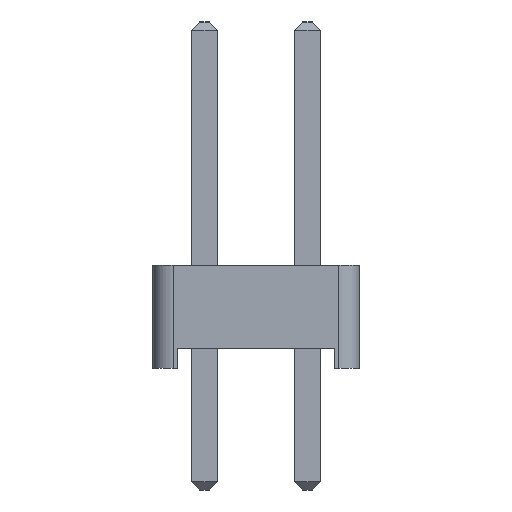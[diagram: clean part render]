
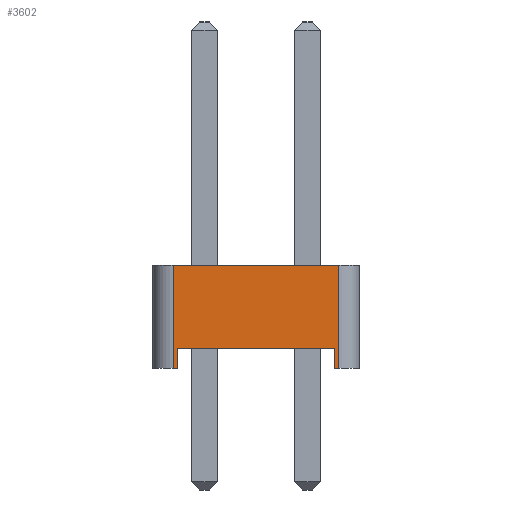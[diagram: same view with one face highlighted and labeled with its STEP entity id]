
A CAD part, left-side view. The second image highlights one B-rep face of the part: STEP entity #3602.
In plain terms, the highlighted planar face has unit normal (-1, 0, 0).
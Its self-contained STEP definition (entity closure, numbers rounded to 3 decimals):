
#3342 = VERTEX_POINT('',#3343);
#3343 = CARTESIAN_POINT('',(-1.27,2.04,0.));
#3351 = PLANE('',#3352);
#3352 = AXIS2_PLACEMENT_3D('',#3353,#3354,#3355);
#3353 = CARTESIAN_POINT('',(0.,0.,0.));
#3354 = DIRECTION('',(-0.,-0.,-1.));
#3355 = DIRECTION('',(-1.,0.,0.));
#3367 = CYLINDRICAL_SURFACE('',#3368,0.5);
#3368 = AXIS2_PLACEMENT_3D('',#3369,#3370,#3371);
#3369 = CARTESIAN_POINT('',(-0.77,2.04,0.));
#3370 = DIRECTION('',(0.,0.,1.));
#3371 = DIRECTION('',(0.,1.,0.));
#3469 = VERTEX_POINT('',#3470);
#3470 = CARTESIAN_POINT('',(-1.27,1.94,0.));
#3484 = PLANE('',#3485);
#3485 = AXIS2_PLACEMENT_3D('',#3486,#3487,#3488);
#3486 = CARTESIAN_POINT('',(1.27,1.94,0.));
#3487 = DIRECTION('',(0.,-1.,0.));
#3488 = DIRECTION('',(-1.,0.,0.));
#3496 = EDGE_CURVE('',#3469,#3342,#3497,.T.);
#3497 = SURFACE_CURVE('',#3498,(#3502,#3509),.PCURVE_S1.);
#3498 = LINE('',#3499,#3500);
#3499 = CARTESIAN_POINT('',(-1.27,-2.54,0.));
#3500 = VECTOR('',#3501,1.);
#3501 = DIRECTION('',(0.,1.,0.));
#3502 = PCURVE('',#3351,#3503);
#3503 = DEFINITIONAL_REPRESENTATION('',(#3504),#3508);
#3504 = LINE('',#3505,#3506);
#3505 = CARTESIAN_POINT('',(1.27,-2.54));
#3506 = VECTOR('',#3507,1.);
#3507 = DIRECTION('',(0.,1.));
#3508 = ( GEOMETRIC_REPRESENTATION_CONTEXT(2) 
PARAMETRIC_REPRESENTATION_CONTEXT() REPRESENTATION_CONTEXT('2D SPACE',''
  ) );
#3509 = PCURVE('',#3510,#3515);
#3510 = PLANE('',#3511);
#3511 = AXIS2_PLACEMENT_3D('',#3512,#3513,#3514);
#3512 = CARTESIAN_POINT('',(-1.27,-2.54,0.));
#3513 = DIRECTION('',(-1.,0.,0.));
#3514 = DIRECTION('',(0.,1.,0.));
#3515 = DEFINITIONAL_REPRESENTATION('',(#3516),#3520);
#3516 = LINE('',#3517,#3518);
#3517 = CARTESIAN_POINT('',(0.,0.));
#3518 = VECTOR('',#3519,1.);
#3519 = DIRECTION('',(1.,0.));
#3520 = ( GEOMETRIC_REPRESENTATION_CONTEXT(2) 
PARAMETRIC_REPRESENTATION_CONTEXT() REPRESENTATION_CONTEXT('2D SPACE',''
  ) );
#3526 = EDGE_CURVE('',#3342,#3527,#3529,.T.);
#3527 = VERTEX_POINT('',#3528);
#3528 = CARTESIAN_POINT('',(-1.27,2.04,2.54));
#3529 = SURFACE_CURVE('',#3530,(#3534,#3541),.PCURVE_S1.);
#3530 = LINE('',#3531,#3532);
#3531 = CARTESIAN_POINT('',(-1.27,2.04,0.));
#3532 = VECTOR('',#3533,1.);
#3533 = DIRECTION('',(0.,0.,1.));
#3534 = PCURVE('',#3367,#3535);
#3535 = DEFINITIONAL_REPRESENTATION('',(#3536),#3540);
#3536 = LINE('',#3537,#3538);
#3537 = CARTESIAN_POINT('',(1.571,0.));
#3538 = VECTOR('',#3539,1.);
#3539 = DIRECTION('',(0.,1.));
#3540 = ( GEOMETRIC_REPRESENTATION_CONTEXT(2) 
PARAMETRIC_REPRESENTATION_CONTEXT() REPRESENTATION_CONTEXT('2D SPACE',''
  ) );
#3541 = PCURVE('',#3510,#3542);
#3542 = DEFINITIONAL_REPRESENTATION('',(#3543),#3547);
#3543 = LINE('',#3544,#3545);
#3544 = CARTESIAN_POINT('',(4.58,0.));
#3545 = VECTOR('',#3546,1.);
#3546 = DIRECTION('',(0.,-1.));
#3547 = ( GEOMETRIC_REPRESENTATION_CONTEXT(2) 
PARAMETRIC_REPRESENTATION_CONTEXT() REPRESENTATION_CONTEXT('2D SPACE',''
  ) );
#3566 = PLANE('',#3567);
#3567 = AXIS2_PLACEMENT_3D('',#3568,#3569,#3570);
#3568 = CARTESIAN_POINT('',(0.,0.,2.54));
#3569 = DIRECTION('',(-0.,-0.,-1.));
#3570 = DIRECTION('',(-1.,0.,0.));
#3602 = ADVANCED_FACE('',(#3603),#3510,.T.);
#3603 = FACE_BOUND('',#3604,.T.);
#3604 = EDGE_LOOP('',(#3605,#3635,#3663,#3684,#3685,#3686,#3709,#3737));
#3605 = ORIENTED_EDGE('',*,*,#3606,.F.);
#3606 = EDGE_CURVE('',#3607,#3609,#3611,.T.);
#3607 = VERTEX_POINT('',#3608);
#3608 = CARTESIAN_POINT('',(-1.27,-2.04,0.));
#3609 = VERTEX_POINT('',#3610);
#3610 = CARTESIAN_POINT('',(-1.27,-1.94,0.));
#3611 = SURFACE_CURVE('',#3612,(#3616,#3623),.PCURVE_S1.);
#3612 = LINE('',#3613,#3614);
#3613 = CARTESIAN_POINT('',(-1.27,-2.54,0.));
#3614 = VECTOR('',#3615,1.);
#3615 = DIRECTION('',(0.,1.,0.));
#3616 = PCURVE('',#3510,#3617);
#3617 = DEFINITIONAL_REPRESENTATION('',(#3618),#3622);
#3618 = LINE('',#3619,#3620);
#3619 = CARTESIAN_POINT('',(0.,0.));
#3620 = VECTOR('',#3621,1.);
#3621 = DIRECTION('',(1.,0.));
#3622 = ( GEOMETRIC_REPRESENTATION_CONTEXT(2) 
PARAMETRIC_REPRESENTATION_CONTEXT() REPRESENTATION_CONTEXT('2D SPACE',''
  ) );
#3623 = PCURVE('',#3624,#3629);
#3624 = PLANE('',#3625);
#3625 = AXIS2_PLACEMENT_3D('',#3626,#3627,#3628);
#3626 = CARTESIAN_POINT('',(0.,0.,0.));
#3627 = DIRECTION('',(-0.,-0.,-1.));
#3628 = DIRECTION('',(-1.,0.,0.));
#3629 = DEFINITIONAL_REPRESENTATION('',(#3630),#3634);
#3630 = LINE('',#3631,#3632);
#3631 = CARTESIAN_POINT('',(1.27,-2.54));
#3632 = VECTOR('',#3633,1.);
#3633 = DIRECTION('',(0.,1.));
#3634 = ( GEOMETRIC_REPRESENTATION_CONTEXT(2) 
PARAMETRIC_REPRESENTATION_CONTEXT() REPRESENTATION_CONTEXT('2D SPACE',''
  ) );
#3635 = ORIENTED_EDGE('',*,*,#3636,.T.);
#3636 = EDGE_CURVE('',#3607,#3637,#3639,.T.);
#3637 = VERTEX_POINT('',#3638);
#3638 = CARTESIAN_POINT('',(-1.27,-2.04,2.54));
#3639 = SURFACE_CURVE('',#3640,(#3644,#3651),.PCURVE_S1.);
#3640 = LINE('',#3641,#3642);
#3641 = CARTESIAN_POINT('',(-1.27,-2.04,0.));
#3642 = VECTOR('',#3643,1.);
#3643 = DIRECTION('',(0.,0.,1.));
#3644 = PCURVE('',#3510,#3645);
#3645 = DEFINITIONAL_REPRESENTATION('',(#3646),#3650);
#3646 = LINE('',#3647,#3648);
#3647 = CARTESIAN_POINT('',(0.5,0.));
#3648 = VECTOR('',#3649,1.);
#3649 = DIRECTION('',(0.,-1.));
#3650 = ( GEOMETRIC_REPRESENTATION_CONTEXT(2) 
PARAMETRIC_REPRESENTATION_CONTEXT() REPRESENTATION_CONTEXT('2D SPACE',''
  ) );
#3651 = PCURVE('',#3652,#3657);
#3652 = CYLINDRICAL_SURFACE('',#3653,0.5);
#3653 = AXIS2_PLACEMENT_3D('',#3654,#3655,#3656);
#3654 = CARTESIAN_POINT('',(-0.77,-2.04,0.));
#3655 = DIRECTION('',(0.,0.,1.));
#3656 = DIRECTION('',(0.,-1.,0.));
#3657 = DEFINITIONAL_REPRESENTATION('',(#3658),#3662);
#3658 = LINE('',#3659,#3660);
#3659 = CARTESIAN_POINT('',(-1.571,0.));
#3660 = VECTOR('',#3661,1.);
#3661 = DIRECTION('',(-0.,1.));
#3662 = ( GEOMETRIC_REPRESENTATION_CONTEXT(2) 
PARAMETRIC_REPRESENTATION_CONTEXT() REPRESENTATION_CONTEXT('2D SPACE',''
  ) );
#3663 = ORIENTED_EDGE('',*,*,#3664,.T.);
#3664 = EDGE_CURVE('',#3637,#3527,#3665,.T.);
#3665 = SURFACE_CURVE('',#3666,(#3670,#3677),.PCURVE_S1.);
#3666 = LINE('',#3667,#3668);
#3667 = CARTESIAN_POINT('',(-1.27,-2.54,2.54));
#3668 = VECTOR('',#3669,1.);
#3669 = DIRECTION('',(0.,1.,0.));
#3670 = PCURVE('',#3510,#3671);
#3671 = DEFINITIONAL_REPRESENTATION('',(#3672),#3676);
#3672 = LINE('',#3673,#3674);
#3673 = CARTESIAN_POINT('',(0.,-2.54));
#3674 = VECTOR('',#3675,1.);
#3675 = DIRECTION('',(1.,0.));
#3676 = ( GEOMETRIC_REPRESENTATION_CONTEXT(2) 
PARAMETRIC_REPRESENTATION_CONTEXT() REPRESENTATION_CONTEXT('2D SPACE',''
  ) );
#3677 = PCURVE('',#3566,#3678);
#3678 = DEFINITIONAL_REPRESENTATION('',(#3679),#3683);
#3679 = LINE('',#3680,#3681);
#3680 = CARTESIAN_POINT('',(1.27,-2.54));
#3681 = VECTOR('',#3682,1.);
#3682 = DIRECTION('',(0.,1.));
#3683 = ( GEOMETRIC_REPRESENTATION_CONTEXT(2) 
PARAMETRIC_REPRESENTATION_CONTEXT() REPRESENTATION_CONTEXT('2D SPACE',''
  ) );
#3684 = ORIENTED_EDGE('',*,*,#3526,.F.);
#3685 = ORIENTED_EDGE('',*,*,#3496,.F.);
#3686 = ORIENTED_EDGE('',*,*,#3687,.T.);
#3687 = EDGE_CURVE('',#3469,#3688,#3690,.T.);
#3688 = VERTEX_POINT('',#3689);
#3689 = CARTESIAN_POINT('',(-1.27,1.94,0.5));
#3690 = SURFACE_CURVE('',#3691,(#3695,#3702),.PCURVE_S1.);
#3691 = LINE('',#3692,#3693);
#3692 = CARTESIAN_POINT('',(-1.27,1.94,0.));
#3693 = VECTOR('',#3694,1.);
#3694 = DIRECTION('',(0.,0.,1.));
#3695 = PCURVE('',#3510,#3696);
#3696 = DEFINITIONAL_REPRESENTATION('',(#3697),#3701);
#3697 = LINE('',#3698,#3699);
#3698 = CARTESIAN_POINT('',(4.48,0.));
#3699 = VECTOR('',#3700,1.);
#3700 = DIRECTION('',(0.,-1.));
#3701 = ( GEOMETRIC_REPRESENTATION_CONTEXT(2) 
PARAMETRIC_REPRESENTATION_CONTEXT() REPRESENTATION_CONTEXT('2D SPACE',''
  ) );
#3702 = PCURVE('',#3484,#3703);
#3703 = DEFINITIONAL_REPRESENTATION('',(#3704),#3708);
#3704 = LINE('',#3705,#3706);
#3705 = CARTESIAN_POINT('',(2.54,0.));
#3706 = VECTOR('',#3707,1.);
#3707 = DIRECTION('',(0.,-1.));
#3708 = ( GEOMETRIC_REPRESENTATION_CONTEXT(2) 
PARAMETRIC_REPRESENTATION_CONTEXT() REPRESENTATION_CONTEXT('2D SPACE',''
  ) );
#3709 = ORIENTED_EDGE('',*,*,#3710,.T.);
#3710 = EDGE_CURVE('',#3688,#3711,#3713,.T.);
#3711 = VERTEX_POINT('',#3712);
#3712 = CARTESIAN_POINT('',(-1.27,-1.94,0.5));
#3713 = SURFACE_CURVE('',#3714,(#3718,#3725),.PCURVE_S1.);
#3714 = LINE('',#3715,#3716);
#3715 = CARTESIAN_POINT('',(-1.27,1.94,0.5));
#3716 = VECTOR('',#3717,1.);
#3717 = DIRECTION('',(0.,-1.,0.));
#3718 = PCURVE('',#3510,#3719);
#3719 = DEFINITIONAL_REPRESENTATION('',(#3720),#3724);
#3720 = LINE('',#3721,#3722);
#3721 = CARTESIAN_POINT('',(4.48,-0.5));
#3722 = VECTOR('',#3723,1.);
#3723 = DIRECTION('',(-1.,0.));
#3724 = ( GEOMETRIC_REPRESENTATION_CONTEXT(2) 
PARAMETRIC_REPRESENTATION_CONTEXT() REPRESENTATION_CONTEXT('2D SPACE',''
  ) );
#3725 = PCURVE('',#3726,#3731);
#3726 = PLANE('',#3727);
#3727 = AXIS2_PLACEMENT_3D('',#3728,#3729,#3730);
#3728 = CARTESIAN_POINT('',(0.,0.,0.5));
#3729 = DIRECTION('',(0.,0.,1.));
#3730 = DIRECTION('',(1.,0.,0.));
#3731 = DEFINITIONAL_REPRESENTATION('',(#3732),#3736);
#3732 = LINE('',#3733,#3734);
#3733 = CARTESIAN_POINT('',(-1.27,1.94));
#3734 = VECTOR('',#3735,1.);
#3735 = DIRECTION('',(0.,-1.));
#3736 = ( GEOMETRIC_REPRESENTATION_CONTEXT(2) 
PARAMETRIC_REPRESENTATION_CONTEXT() REPRESENTATION_CONTEXT('2D SPACE',''
  ) );
#3737 = ORIENTED_EDGE('',*,*,#3738,.F.);
#3738 = EDGE_CURVE('',#3609,#3711,#3739,.T.);
#3739 = SURFACE_CURVE('',#3740,(#3744,#3751),.PCURVE_S1.);
#3740 = LINE('',#3741,#3742);
#3741 = CARTESIAN_POINT('',(-1.27,-1.94,0.));
#3742 = VECTOR('',#3743,1.);
#3743 = DIRECTION('',(0.,0.,1.));
#3744 = PCURVE('',#3510,#3745);
#3745 = DEFINITIONAL_REPRESENTATION('',(#3746),#3750);
#3746 = LINE('',#3747,#3748);
#3747 = CARTESIAN_POINT('',(0.6,0.));
#3748 = VECTOR('',#3749,1.);
#3749 = DIRECTION('',(0.,-1.));
#3750 = ( GEOMETRIC_REPRESENTATION_CONTEXT(2) 
PARAMETRIC_REPRESENTATION_CONTEXT() REPRESENTATION_CONTEXT('2D SPACE',''
  ) );
#3751 = PCURVE('',#3752,#3757);
#3752 = PLANE('',#3753);
#3753 = AXIS2_PLACEMENT_3D('',#3754,#3755,#3756);
#3754 = CARTESIAN_POINT('',(-1.27,-1.94,0.));
#3755 = DIRECTION('',(0.,1.,0.));
#3756 = DIRECTION('',(1.,0.,0.));
#3757 = DEFINITIONAL_REPRESENTATION('',(#3758),#3762);
#3758 = LINE('',#3759,#3760);
#3759 = CARTESIAN_POINT('',(0.,0.));
#3760 = VECTOR('',#3761,1.);
#3761 = DIRECTION('',(0.,-1.));
#3762 = ( GEOMETRIC_REPRESENTATION_CONTEXT(2) 
PARAMETRIC_REPRESENTATION_CONTEXT() REPRESENTATION_CONTEXT('2D SPACE',''
  ) );
